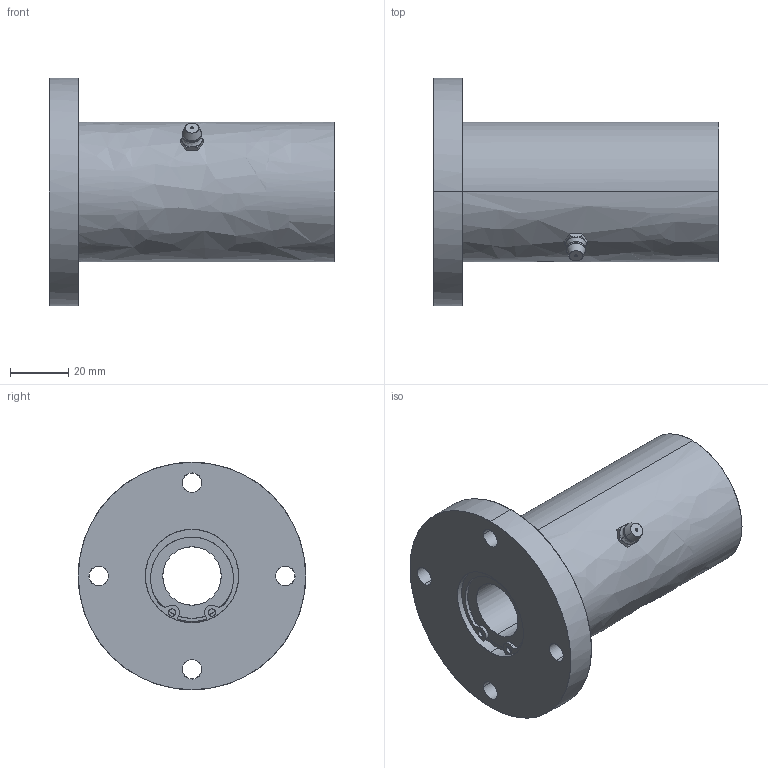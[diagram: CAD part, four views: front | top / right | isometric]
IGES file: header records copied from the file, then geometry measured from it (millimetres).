
Global section: file name: No Iges File Name specified; native system: AutoDesk Inventor R10; preprocessor: AutoDesk Inventor Iges Exporter R10; author: No Author specified; organization: No Organization specified; date: 20101214.141953; units: millimetre
Bounding box: 98 x 78 x 78 mm (x, y, z)
Surface area: 36218 mm2 (no closed solid volume)
Topology: 0 solids, 0 shells, 147 faces, 1028 edges, 1026 vertices
Faces by surface type: bspline 147
